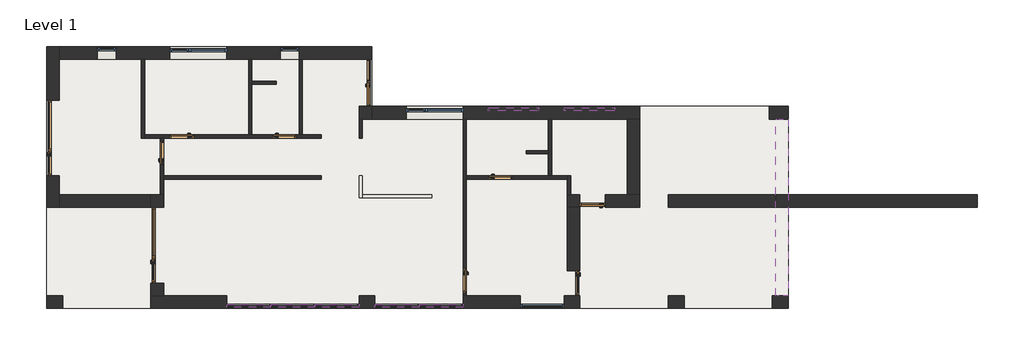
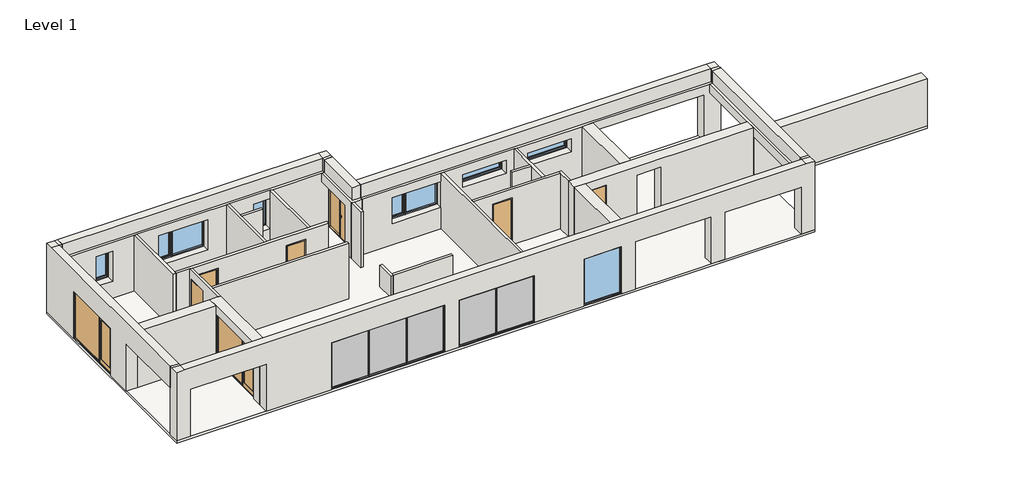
# One storey, incomplete: 27 walls, 17 members, 10 doors, 7 windows, 5 plates, 1 slab.
"""IFC4 building model written with IfcOpenShell, lengths in millimetres."""

from ifc_helpers import new_model, si_unit, frame, origin, origin_with_axes, place, context, project, spatial, polyline, outline, extrude, faceted_brep, transform, mapped, element, save
from components import door_1800x2200_mm_7a9b0269, ext_door_window_assembly_glass_2880x2200_mm_ebeafb6b, ext_single_flush_out_glass_960x2200_mm_f4f0ea2b, ext_single_flush1_960x2200_mm_7c25dc53, int_single_flush1_900x2200_mm_083ae047, int_single_flush1_900x2200_mm_924e3177, rectangular_mullion_exterior_50x115mm_b31c03e9, rectangular_mullion_exterior_50x115mm_eaa21abb, rectangular_mullion_exterior_50x115mm_593a1a29, system_panel_exterior_glass_22mm_baca3ab9, system_panel_exterior_glass_22mm_266c4f93, fixed_1680x2200_mm_e3bfc0e5, single_light_top_hinged_1920x600_dd11e4f9, single_light_720x1400_mm_50d61ae6, window_assembly_individual_2160x1200_mm_f898fd7d, window_assembly_individual_2160x1400_mm_6f070fa8

model = new_model("IFC4")

# Units and contexts
model_context = context("Model", 3, world=origin())
ifc_project = project(units=[si_unit("LENGTHUNIT", "METRE", prefix="MILLI")], contexts=[model_context])

# Site, building, storey
site = spatial("IfcSite", under=ifc_project)
building = spatial("IfcBuilding", under=site)
storey = spatial("IfcBuildingStorey", under=building, Name="Level 1", Elevation=0.0)

# Doors
placement = place(None, origin())
door_1800x2200_mm_shape = door_1800x2200_mm_7a9b0269(model_context)
element("IfcDoor", 1, ObjectType="Ext. Door inw. Window Assembly : 1800x2200 mm", at=placement, inside=storey, context=model_context, shape_type="MappedRepresentation", body=[
    mapped(door_1800x2200_mm_shape, transform((12120.0, 8580.0, 0.0), x_axis=(0.0, -1.0, 0.0), y_axis=(1.0, 0.0, 0.0), z_axis=(0.0, 0.0, 1.0))),
])
ext_door_window_assembly_glass_2880x2200_mm_shape = ext_door_window_assembly_glass_2880x2200_mm_ebeafb6b(model_context)
element("IfcDoor", 2, ObjectType="Ext. Door Window Assembly - Glass : 2880x2200 mm", at=placement, inside=storey, context=model_context, shape_type="MappedRepresentation", body=[
    mapped(ext_door_window_assembly_glass_2880x2200_mm_shape, transform((4200.0, 2400.0, 0.0), x_axis=(0.0, -1.0, 0.0), y_axis=(1.0, 0.0, 0.0), z_axis=(0.0, 0.0, 1.0))),
])
element("IfcDoor", 3, ObjectType="Ext. Door Window Assembly - Glass : 2880x2200 mm", at=placement, inside=storey, context=model_context, shape_type="MappedRepresentation", body=[
    mapped(ext_door_window_assembly_glass_2880x2200_mm_shape, transform((240.0, 6480.0, 0.0), x_axis=(0.0, -1.0, 0.0), y_axis=(1.0, 0.0, 0.0), z_axis=(0.0, 0.0, 1.0))),
])
ext_single_flush_out_glass_960x2200_mm_shape = ext_single_flush_out_glass_960x2200_mm_f4f0ea2b(model_context)
element("IfcDoor", 4, ObjectType="Ext. Single-Flush out - Glass : 960x2200 mm", at=placement, inside=storey, context=model_context, shape_type="MappedRepresentation", body=[
    mapped(ext_single_flush_out_glass_960x2200_mm_shape, transform((20040.0, 960.0, 0.0), x_axis=(0.0, -1.0, 0.0), y_axis=(1.0, 0.0, 0.0), z_axis=(0.0, 0.0, 1.0))),
])
ext_single_flush1_960x2200_mm_shape = ext_single_flush1_960x2200_mm_7c25dc53(model_context)
element("IfcDoor", 5, ObjectType="Ext. Single-Flush1 : 960x2200 mm", at=placement, inside=storey, context=model_context, shape_type="MappedRepresentation", body=[
    mapped(ext_single_flush1_960x2200_mm_shape, transform((20760.0, 4080.0, 0.0), x_axis=(-1.0, 0.0, 0.0), y_axis=(0.0, -1.0, 0.0), z_axis=(0.0, 0.0, 1.0))),
])
int_single_flush1_900x2200_mm_shape = int_single_flush1_900x2200_mm_083ae047(model_context)
element("IfcDoor", 6, ObjectType="Int. Single-Flush1 : 900x2200 mm", at=placement, inside=storey, context=model_context, shape_type="MappedRepresentation", body=[
    mapped(int_single_flush1_900x2200_mm_shape, transform((4380.0, 5910.0, 0.0), x_axis=(0.0, 1.0, 0.0), y_axis=(-1.0, 0.0, 0.0), z_axis=(0.0, 0.0, 1.0))),
])
element("IfcDoor", 7, ObjectType="Int. Single-Flush1 : 900x2200 mm", at=placement, inside=storey, context=model_context, shape_type="MappedRepresentation", body=[
    mapped(int_single_flush1_900x2200_mm_shape, transform((9030.0, 6540.0, 0.0), x_axis=(1.0, 0.0, 0.0), y_axis=(0.0, 1.0, 0.0), z_axis=(0.0, 0.0, 1.0))),
])
element("IfcDoor", 8, ObjectType="Int. Single-Flush1 : 900x2200 mm", at=placement, inside=storey, context=model_context, shape_type="MappedRepresentation", body=[
    mapped(int_single_flush1_900x2200_mm_shape, transform((17250.0, 4980.0, 0.0), x_axis=(1.0, 0.0, 0.0), y_axis=(0.0, 1.0, 0.0), z_axis=(0.0, 0.0, 1.0))),
])
element("IfcDoor", 9, ObjectType="Int. Single-Flush1 : 900x2200 mm", at=placement, inside=storey, context=model_context, shape_type="MappedRepresentation", body=[
    mapped(int_single_flush1_900x2200_mm_shape, transform((15900.0, 1050.0, 0.0), x_axis=(0.0, -1.0, 0.0), y_axis=(1.0, 0.0, 0.0), z_axis=(0.0, 0.0, 1.0))),
])
int_single_flush1_900x2200_mm_2_shape = int_single_flush1_900x2200_mm_924e3177(model_context)
element("IfcDoor", 10, ObjectType="Int. Single-Flush1 : 900x2200 mm", at=placement, inside=storey, context=model_context, shape_type="MappedRepresentation", body=[
    mapped(int_single_flush1_900x2200_mm_2_shape, transform((5130.0, 6540.0, 0.0), x_axis=(-1.0, 0.0, 0.0), y_axis=(0.0, -1.0, 0.0), z_axis=(0.0, 0.0, 1.0))),
])

# Members
rectangular_mullion_exterior_50x115mm_shape = rectangular_mullion_exterior_50x115mm_b31c03e9(model_context)
element("IfcMember", 11, ObjectType="Rectangular Mullion : Exterior - 50x115mm", at=placement, inside=storey, context=model_context, shape_type="MappedRepresentation", body=[
    mapped(rectangular_mullion_exterior_50x115mm_shape, transform((6840.0, 50.0, 2200.0), x_axis=(0.0, 0.0, 1.0), y_axis=(0.0, 1.0, 0.0), z_axis=(-1.0, 0.0, 0.0))),
])
element("IfcMember", 12, ObjectType="Rectangular Mullion : Exterior - 50x115mm", at=placement, inside=storey, context=model_context, shape_type="MappedRepresentation", body=[
    mapped(rectangular_mullion_exterior_50x115mm_shape, transform((12480.0, 50.0, 2200.0), x_axis=(0.0, 0.0, 1.0), y_axis=(0.0, 1.0, 0.0), z_axis=(-1.0, 0.0, 0.0))),
])
element("IfcMember", 13, ObjectType="Rectangular Mullion : Exterior - 50x115mm", at=placement, inside=storey, context=model_context, shape_type="MappedRepresentation", body=[
    mapped(rectangular_mullion_exterior_50x115mm_shape, transform((11880.0, 50.0, 0.0), x_axis=(0.0, 0.0, -1.0), y_axis=(0.0, 1.0, 0.0), z_axis=(1.0, 0.0, 0.0))),
])
element("IfcMember", 14, ObjectType="Rectangular Mullion : Exterior - 50x115mm", at=placement, inside=storey, context=model_context, shape_type="MappedRepresentation", body=[
    mapped(rectangular_mullion_exterior_50x115mm_shape, transform((15840.0, 50.0, 0.0), x_axis=(0.0, 0.0, -1.0), y_axis=(0.0, 1.0, 0.0), z_axis=(1.0, 0.0, 0.0))),
])
rectangular_mullion_exterior_50x115mm_2_shape = rectangular_mullion_exterior_50x115mm_eaa21abb(model_context)
element("IfcMember", 15, ObjectType="Rectangular Mullion : Exterior - 50x115mm", at=placement, inside=storey, context=model_context, shape_type="MappedRepresentation", body=[
    mapped(rectangular_mullion_exterior_50x115mm_2_shape, transform((8520.0, 50.0, 50.0), x_axis=(-1.0, 0.0, 0.0), y_axis=(0.0, 1.0, 0.0), z_axis=(0.0, 0.0, -1.0))),
])
element("IfcMember", 16, ObjectType="Rectangular Mullion : Exterior - 50x115mm", at=placement, inside=storey, context=model_context, shape_type="MappedRepresentation", body=[
    mapped(rectangular_mullion_exterior_50x115mm_2_shape, transform((10200.0, 50.0, 50.0), x_axis=(-1.0, 0.0, 0.0), y_axis=(0.0, 1.0, 0.0), z_axis=(0.0, 0.0, -1.0))),
])
element("IfcMember", 17, ObjectType="Rectangular Mullion : Exterior - 50x115mm", at=placement, inside=storey, context=model_context, shape_type="MappedRepresentation", body=[
    mapped(rectangular_mullion_exterior_50x115mm_2_shape, transform((14160.0, 50.0, 50.0), x_axis=(-1.0, 0.0, 0.0), y_axis=(0.0, 1.0, 0.0), z_axis=(0.0, 0.0, -1.0))),
])
element("IfcMember", 18, ObjectType="Rectangular Mullion : Exterior - 50x115mm", at=placement, inside=storey, context=model_context, shape_type="MappedRepresentation", body=[
    mapped(rectangular_mullion_exterior_50x115mm_shape, transform((8520.0, 50.0, 0.0), x_axis=(0.0, 0.0, -1.0), y_axis=(0.0, 1.0, 0.0), z_axis=(1.0, 0.0, 0.0))),
])
element("IfcMember", 19, ObjectType="Rectangular Mullion : Exterior - 50x115mm", at=placement, inside=storey, context=model_context, shape_type="MappedRepresentation", body=[
    mapped(rectangular_mullion_exterior_50x115mm_shape, transform((14160.0, 50.0, 0.0), x_axis=(0.0, 0.0, -1.0), y_axis=(0.0, 1.0, 0.0), z_axis=(1.0, 0.0, 0.0))),
])
element("IfcMember", 20, ObjectType="Rectangular Mullion : Exterior - 50x115mm", at=placement, inside=storey, context=model_context, shape_type="MappedRepresentation", body=[
    mapped(rectangular_mullion_exterior_50x115mm_shape, transform((10200.0, 50.0, 0.0), x_axis=(0.0, 0.0, -1.0), y_axis=(0.0, 1.0, 0.0), z_axis=(1.0, 0.0, 0.0))),
])
element("IfcMember", 21, ObjectType="Rectangular Mullion : Exterior - 50x115mm", at=placement, inside=storey, context=model_context, shape_type="MappedRepresentation", body=[
    mapped(rectangular_mullion_exterior_50x115mm_shape, transform((8520.0, 50.0, 2200.0), x_axis=(0.0, 0.0, 1.0), y_axis=(0.0, 1.0, 0.0), z_axis=(-1.0, 0.0, 0.0))),
])
element("IfcMember", 22, ObjectType="Rectangular Mullion : Exterior - 50x115mm", at=placement, inside=storey, context=model_context, shape_type="MappedRepresentation", body=[
    mapped(rectangular_mullion_exterior_50x115mm_shape, transform((10200.0, 50.0, 2200.0), x_axis=(0.0, 0.0, 1.0), y_axis=(0.0, 1.0, 0.0), z_axis=(-1.0, 0.0, 0.0))),
])
element("IfcMember", 23, ObjectType="Rectangular Mullion : Exterior - 50x115mm", at=placement, inside=storey, context=model_context, shape_type="MappedRepresentation", body=[
    mapped(rectangular_mullion_exterior_50x115mm_shape, transform((14160.0, 50.0, 2200.0), x_axis=(0.0, 0.0, 1.0), y_axis=(0.0, 1.0, 0.0), z_axis=(-1.0, 0.0, 0.0))),
])
rectangular_mullion_exterior_50x115mm_3_shape = rectangular_mullion_exterior_50x115mm_593a1a29(model_context)
element("IfcMember", 24, ObjectType="Rectangular Mullion : Exterior - 50x115mm", at=placement, inside=storey, context=model_context, shape_type="MappedRepresentation", body=[
    mapped(rectangular_mullion_exterior_50x115mm_3_shape, transform((11880.0, 50.0, 2150.0), x_axis=(1.0, 0.0, 0.0), y_axis=(0.0, 1.0, 0.0), z_axis=(0.0, 0.0, 1.0))),
])
element("IfcMember", 25, ObjectType="Rectangular Mullion : Exterior - 50x115mm", at=placement, inside=storey, context=model_context, shape_type="MappedRepresentation", body=[
    mapped(rectangular_mullion_exterior_50x115mm_3_shape, transform((15840.0, 50.0, 2150.0), x_axis=(1.0, 0.0, 0.0), y_axis=(0.0, 1.0, 0.0), z_axis=(0.0, 0.0, 1.0))),
])
element("IfcMember", 26, ObjectType="Rectangular Mullion : Exterior - 50x115mm", at=placement, inside=storey, context=model_context, shape_type="MappedRepresentation", body=[
    mapped(rectangular_mullion_exterior_50x115mm_3_shape, transform((6840.0, 50.0, 50.0), x_axis=(-1.0, 0.0, 0.0), y_axis=(0.0, 1.0, 0.0), z_axis=(0.0, 0.0, -1.0))),
])
element("IfcMember", 27, ObjectType="Rectangular Mullion : Exterior - 50x115mm", at=placement, inside=storey, context=model_context, shape_type="MappedRepresentation", body=[
    mapped(rectangular_mullion_exterior_50x115mm_3_shape, transform((12480.0, 50.0, 50.0), x_axis=(-1.0, 0.0, 0.0), y_axis=(0.0, 1.0, 0.0), z_axis=(0.0, 0.0, -1.0))),
])

# Plates
system_panel_exterior_glass_22mm_shape = system_panel_exterior_glass_22mm_baca3ab9(model_context)
element("IfcPlate", 28, ObjectType="System Panel : Exterior - Glass 22mm", at=placement, inside=storey, context=model_context, shape_type="MappedRepresentation", body=[
    mapped(system_panel_exterior_glass_22mm_shape, transform((11027.5, 50.0, 50.0), x_axis=(-1.0, 0.0, 0.0), y_axis=(0.0, -1.0, 0.0), z_axis=(0.0, 0.0, 1.0))),
])
element("IfcPlate", 29, ObjectType="System Panel : Exterior - Glass 22mm", at=placement, inside=storey, context=model_context, shape_type="MappedRepresentation", body=[
    mapped(system_panel_exterior_glass_22mm_shape, transform((7692.5, 50.0, 50.0), x_axis=(-1.0, 0.0, 0.0), y_axis=(0.0, -1.0, 0.0), z_axis=(0.0, 0.0, 1.0))),
])
element("IfcPlate", 30, ObjectType="System Panel : Exterior - Glass 22mm", at=placement, inside=storey, context=model_context, shape_type="MappedRepresentation", body=[
    mapped(system_panel_exterior_glass_22mm_shape, transform((14987.5, 50.0, 50.0), x_axis=(-1.0, 0.0, 0.0), y_axis=(0.0, -1.0, 0.0), z_axis=(0.0, 0.0, 1.0))),
])
element("IfcPlate", 31, ObjectType="System Panel : Exterior - Glass 22mm", at=placement, inside=storey, context=model_context, shape_type="MappedRepresentation", body=[
    mapped(system_panel_exterior_glass_22mm_shape, transform((13332.5, 50.0, 50.0), x_axis=(-1.0, 0.0, 0.0), y_axis=(0.0, -1.0, 0.0), z_axis=(0.0, 0.0, 1.0))),
])
system_panel_exterior_glass_22mm_2_shape = system_panel_exterior_glass_22mm_266c4f93(model_context)
element("IfcPlate", 32, ObjectType="System Panel : Exterior - Glass 22mm", at=placement, inside=storey, context=model_context, shape_type="MappedRepresentation", body=[
    mapped(system_panel_exterior_glass_22mm_2_shape, transform((9360.0, 50.0, 50.0), x_axis=(-1.0, 0.0, 0.0), y_axis=(0.0, -1.0, 0.0), z_axis=(0.0, 0.0, 1.0))),
])

# Slab
element("IfcSlab", 33, ObjectType="Generic - 100mm (Ground)", at=placement, inside=storey, context=model_context, shape_type="SweptSolid", body=[
    extrude(outline(polyline([(12360.0, 9960.0), (12360.0, 7680.0), (28200.0, 7680.0), (28200.0, 4320.0), (35400.0, 4320.0), (35400.0, 3840.0), (28200.0, 3840.0), (28200.0, 0.0), (0.0, 0.0), (0.0, 9960.0), (12360.0, 9960.0)])), frame((0.0, 0.0, -100.0), z_axis=(0.0, 0.0, 1.0), x_axis=(1.0, 0.0, 0.0)), (0.0, 0.0, 1.0), 100.0),
])

# Walls
element("IfcWall", 34, ObjectType="Generic - 120mm (Interior)", at=placement, inside=storey, context=model_context, shape_type="Brep", body=[
    faceted_brep([(3600.0, 9480.0, 0.0), (3600.0, 6480.0, 0.0), (3600.0, 6480.0, 2600.0), (3600.0, 9480.0, 2600.0), (3720.0, 9480.0, 0.0), (3720.0, 9480.0, 2600.0), (3720.0, 6600.0, 2600.0), (3720.0, 6480.0, 2600.0), (3720.0, 6480.0, 0.0), (3720.0, 6600.0, 0.0)], [[[0, 1, 2, 3]], [[4, 5, 6, 7, 8, 9]], [[1, 0, 4, 9, 8]], [[2, 1, 8, 7]], [[0, 3, 5, 4]], [[3, 2, 7, 6, 5]]]),
])
element("IfcWall", 35, ObjectType="Generic - 120mm (Interior)", at=placement, inside=storey, context=model_context, shape_type="Brep", body=[
    faceted_brep([(10440.0, 6480.0, 0.0), (10440.0, 6480.0, 2600.0), (4440.0, 6480.0, 2600.0), (4320.0, 6480.0, 2600.0), (3720.0, 6480.0, 2600.0), (3720.0, 6480.0, 0.0), (4320.0, 6480.0, 0.0), (4440.0, 6480.0, 0.0), (4680.0, 6480.0, 0.0), (4680.0, 6480.0, 2200.0), (5580.0, 6480.0, 2200.0), (5580.0, 6480.0, 0.0), (8580.0, 6480.0, 0.0), (8580.0, 6480.0, 2200.0), (9480.0, 6480.0, 2200.0), (9480.0, 6480.0, 0.0), (10440.0, 6600.0, 2600.0), (10440.0, 6600.0, 0.0), (9720.0, 6600.0, 0.0), (9600.0, 6600.0, 0.0), (9480.0, 6600.0, 0.0), (9480.0, 6600.0, 2200.0), (8580.0, 6600.0, 2200.0), (8580.0, 6600.0, 0.0), (7800.0, 6600.0, 0.0), (7680.0, 6600.0, 0.0), (5580.0, 6600.0, 0.0), (5580.0, 6600.0, 2200.0), (4680.0, 6600.0, 2200.0), (4680.0, 6600.0, 0.0), (3720.0, 6600.0, 0.0), (3720.0, 6600.0, 2600.0), (7680.0, 6600.0, 2600.0), (7800.0, 6600.0, 2600.0), (9600.0, 6600.0, 2600.0), (9720.0, 6600.0, 2600.0)], [[[0, 1, 2, 3, 4, 5, 6, 7, 8, 9, 10, 11, 12, 13, 14, 15]], [[16, 17, 18, 19, 20, 21, 22, 23, 24, 25, 26, 27, 28, 29, 30, 31, 32, 33, 34, 35]], [[17, 0, 15, 20, 19, 18]], [[5, 30, 29, 8, 7, 6]], [[23, 12, 11, 26, 25, 24]], [[1, 0, 17, 16]], [[5, 4, 31, 30]], [[14, 21, 20, 15]], [[21, 14, 13, 22]], [[22, 13, 12, 23]], [[28, 9, 8, 29]], [[9, 28, 27, 10]], [[10, 27, 26, 11]], [[4, 3, 2, 1, 16, 35, 34, 33, 32, 31]]]),
])
element("IfcWall", 36, ObjectType="Generic - 120mm (Interior)", at=placement, inside=storey, context=model_context, shape_type="Brep", body=[
    faceted_brep([(4440.0, 6480.0, 0.0), (4440.0, 6480.0, 2600.0), (4440.0, 5040.0, 2600.0), (4440.0, 4920.0, 2600.0), (4440.0, 4320.0, 2600.0), (4440.0, 4320.0, 0.0), (4440.0, 4920.0, 0.0), (4440.0, 5040.0, 0.0), (4440.0, 5460.0, 0.0), (4440.0, 5460.0, 2200.0), (4440.0, 6360.0, 2200.0), (4440.0, 6360.0, 0.0), (4320.0, 6480.0, 2600.0), (4320.0, 6480.0, 0.0), (4320.0, 6360.0, 0.0), (4320.0, 6360.0, 2200.0), (4320.0, 5460.0, 2200.0), (4320.0, 5460.0, 0.0), (4320.0, 4320.0, 0.0), (4320.0, 4320.0, 2600.0)], [[[0, 1, 2, 3, 4, 5, 6, 7, 8, 9, 10, 11]], [[12, 13, 14, 15, 16, 17, 18, 19]], [[13, 0, 11, 14]], [[5, 18, 17, 8, 7, 6]], [[1, 0, 13, 12]], [[5, 4, 19, 18]], [[10, 15, 14, 11]], [[15, 10, 9, 16]], [[16, 9, 8, 17]], [[4, 3, 2, 1, 12, 19]]]),
])
element("IfcWall", 37, ObjectType="Generic - 120mm (Interior)", at=placement, inside=storey, context=model_context, shape_type="Brep", body=[
    faceted_brep([(7800.0, 6600.0, 0.0), (7800.0, 8520.0, 0.0), (7800.0, 8640.0, 0.0), (7800.0, 9480.0, 0.0), (7800.0, 9480.0, 2600.0), (7800.0, 8640.0, 2600.0), (7800.0, 8520.0, 2600.0), (7800.0, 6600.0, 2600.0), (7680.0, 6600.0, 0.0), (7680.0, 6600.0, 2600.0), (7680.0, 9480.0, 2600.0), (7680.0, 9480.0, 0.0)], [[[0, 1, 2, 3, 4, 5, 6, 7]], [[8, 9, 10, 11]], [[3, 2, 1, 0, 8, 11]], [[0, 7, 9, 8]], [[4, 3, 11, 10]], [[7, 6, 5, 4, 10, 9]]]),
])
element("IfcWall", 38, ObjectType="Generic - 120mm (Interior)", at=placement, inside=storey, context=model_context, shape_type="Brep", body=[
    faceted_brep([(9720.0, 6600.0, 0.0), (9720.0, 9480.0, 0.0), (9720.0, 9480.0, 2600.0), (9720.0, 6600.0, 2600.0), (9600.0, 6600.0, 0.0), (9600.0, 6600.0, 2600.0), (9600.0, 9480.0, 2600.0), (9600.0, 9480.0, 2200.0), (9600.0, 9480.0, 800.0), (9600.0, 9480.0, 0.0)], [[[0, 1, 2, 3]], [[4, 5, 6, 7, 8, 9]], [[1, 0, 4, 9]], [[0, 3, 5, 4]], [[2, 1, 9, 8, 7, 6]], [[3, 2, 6, 5]]]),
])
element("IfcWall", 39, ObjectType="Generic - 120mm (Interior)", at=placement, inside=storey, context=model_context, shape_type="Brep", body=[
    faceted_brep([(15960.0, 7200.0, 0.0), (15960.0, 7200.0, 2600.0), (15960.0, 5040.0, 2600.0), (15960.0, 4920.0, 2600.0), (15960.0, 480.0, 2600.0), (15960.0, 480.0, 0.0), (15960.0, 600.0, 0.0), (15960.0, 600.0, 2200.0), (15960.0, 1500.0, 2200.0), (15960.0, 1500.0, 0.0), (15960.0, 4920.0, 0.0), (15960.0, 5040.0, 0.0), (15840.0, 7200.0, 2600.0), (15840.0, 7200.0, 2200.0), (15840.0, 7200.0, 1000.0), (15840.0, 7200.0, 0.0), (15840.0, 1500.0, 0.0), (15840.0, 1500.0, 2200.0), (15840.0, 600.0, 2200.0), (15840.0, 600.0, 0.0), (15840.0, 480.0, 0.0), (15840.0, 480.0, 2200.0), (15840.0, 480.0, 2600.0)], [[[0, 1, 2, 3, 4, 5, 6, 7, 8, 9, 10, 11]], [[12, 13, 14, 15, 16, 17, 18, 19, 20, 21, 22]], [[5, 20, 19, 6]], [[15, 0, 11, 10, 9, 16]], [[1, 0, 15, 14, 13, 12]], [[5, 4, 22, 21, 20]], [[18, 7, 6, 19]], [[7, 18, 17, 8]], [[8, 17, 16, 9]], [[4, 3, 2, 1, 12, 22]]]),
])
element("IfcWall", 40, ObjectType="Generic - 120mm (Interior)", at=placement, inside=storey, context=model_context, shape_type="Brep", body=[
    faceted_brep([(19920.0, 4320.0, 0.0), (19920.0, 5040.0, 0.0), (19920.0, 5040.0, 2600.0), (19920.0, 4320.0, 2600.0), (19800.0, 4320.0, 0.0), (19800.0, 4320.0, 2600.0), (19800.0, 4920.0, 2600.0), (19800.0, 5040.0, 2600.0), (19800.0, 5040.0, 0.0), (19800.0, 4920.0, 0.0)], [[[0, 1, 2, 3]], [[4, 5, 6, 7, 8, 9]], [[1, 0, 4, 9, 8]], [[2, 1, 8, 7]], [[0, 3, 5, 4]], [[3, 2, 7, 6, 5]]]),
])
element("IfcWall", 41, ObjectType="Generic - 120mm (Interior)", at=placement, inside=storey, context=model_context, shape_type="Brep", body=[
    faceted_brep([(19800.0, 5040.0, 2600.0), (19800.0, 5040.0, 0.0), (19200.0, 5040.0, 0.0), (19080.0, 5040.0, 0.0), (17700.0, 5040.0, 0.0), (17700.0, 5040.0, 2200.0), (16800.0, 5040.0, 2200.0), (16800.0, 5040.0, 0.0), (15960.0, 5040.0, 0.0), (15960.0, 5040.0, 2600.0), (19080.0, 5040.0, 2600.0), (19200.0, 5040.0, 2600.0), (19800.0, 4920.0, 0.0), (19800.0, 4920.0, 2600.0), (15960.0, 4920.0, 2600.0), (15960.0, 4920.0, 0.0), (16800.0, 4920.0, 0.0), (16800.0, 4920.0, 2200.0), (17700.0, 4920.0, 2200.0), (17700.0, 4920.0, 0.0)], [[[0, 1, 2, 3, 4, 5, 6, 7, 8, 9, 10, 11]], [[12, 13, 14, 15, 16, 17, 18, 19]], [[1, 12, 19, 4, 3, 2]], [[15, 8, 7, 16]], [[1, 0, 13, 12]], [[9, 8, 15, 14]], [[18, 5, 4, 19]], [[5, 18, 17, 6]], [[6, 17, 16, 7]], [[0, 11, 10, 9, 14, 13]]]),
])
element("IfcWall", 42, ObjectType="Generic - 120mm (Interior)", at=placement, inside=storey, context=model_context, shape_type="Brep", body=[
    faceted_brep([(19200.0, 5040.0, 0.0), (19200.0, 7200.0, 0.0), (19200.0, 7200.0, 2600.0), (19200.0, 5040.0, 2600.0), (19080.0, 5040.0, 0.0), (19080.0, 5040.0, 2600.0), (19080.0, 5880.0, 2600.0), (19080.0, 6000.0, 2600.0), (19080.0, 7200.0, 2600.0), (19080.0, 7200.0, 0.0), (19080.0, 6000.0, 0.0), (19080.0, 5880.0, 0.0)], [[[0, 1, 2, 3]], [[4, 5, 6, 7, 8, 9, 10, 11]], [[1, 0, 4, 11, 10, 9]], [[0, 3, 5, 4]], [[2, 1, 9, 8]], [[3, 2, 8, 7, 6, 5]]]),
])
element("IfcWall", 43, ObjectType="Generic - 120mm (Interior)", at=placement, inside=storey, context=model_context, shape_type="SweptSolid", body=[
    extrude(outline(polyline([(18240.0, 6000.0), (19080.0, 6000.0), (19080.0, 5880.0), (18240.0, 5880.0), (18240.0, 6000.0)])), origin_with_axes(), (0.0, 0.0, 1.0), 2600.0),
])
element("IfcWall", 44, ObjectType="Generic - 120mm (Interior)", at=placement, inside=storey, context=model_context, shape_type="SweptSolid", body=[
    extrude(outline(polyline([(8720.0, 8520.0), (7800.0, 8520.0), (7800.0, 8640.0), (8720.0, 8640.0), (8720.0, 8520.0)])), origin_with_axes(), (0.0, 0.0, 1.0), 2600.0),
])
element("IfcWall", 45, ObjectType="Generic - 120mm (Interior)", at=placement, inside=storey, context=model_context, shape_type="SweptSolid", body=[
    extrude(outline(polyline([(10440.0, 4920.0), (4440.0, 4920.0), (4440.0, 5040.0), (10440.0, 5040.0), (10440.0, 4920.0)])), origin_with_axes(), (0.0, 0.0, 1.0), 2600.0),
])
element("IfcWall", 46, ObjectType="Generic - 120mm (Interior)", at=placement, inside=storey, context=model_context, shape_type="Brep", body=[
    faceted_brep([(11880.0, 5040.0, 0.0), (11880.0, 4200.0, 0.0), (11880.0, 4200.0, 1000.0), (11880.0, 5040.0, 1000.0), (12000.0, 5040.0, 0.0), (12000.0, 5040.0, 1000.0), (12000.0, 4320.0, 1000.0), (12000.0, 4200.0, 1000.0), (12000.0, 4200.0, 0.0), (12000.0, 4320.0, 0.0)], [[[0, 1, 2, 3]], [[4, 5, 6, 7, 8, 9]], [[1, 0, 4, 9, 8]], [[3, 2, 7, 6, 5]], [[0, 3, 5, 4]], [[2, 1, 8, 7]]]),
])
element("IfcWall", 47, ObjectType="Generic - 120mm (Interior)", at=placement, inside=storey, context=model_context, shape_type="SweptSolid", body=[
    extrude(outline(polyline([(14640.0, 4200.0), (12000.0, 4200.0), (12000.0, 4320.0), (14640.0, 4320.0), (14640.0, 4200.0)])), origin_with_axes(), (0.0, 0.0, 1.0), 1000.0),
])
element("IfcWall", 48, ObjectType="Generic - 120mm (Interior)", at=placement, inside=storey, context=model_context, shape_type="SweptSolid", body=[
    extrude(outline(polyline([(11880.0, 6480.0), (11880.0, 7200.0), (12000.0, 7200.0), (12000.0, 6480.0), (11880.0, 6480.0)])), origin_with_axes(), (0.0, 0.0, 1.0), 2600.0),
])
element("IfcWall", 49, ObjectType="Generic - 480mm (Exterior)", at=placement, inside=storey, context=model_context, shape_type="Brep", body=[
    faceted_brep([(480.0, 9960.0, 0.0), (480.0, 9960.0, 3200.0), (480.0, 9600.0, 3200.0), (480.0, 9600.0, 2600.0), (480.0, 9480.0, 2600.0), (480.0, 4320.0, 2600.0), (480.0, 3840.0, 2600.0), (480.0, 480.0, 2600.0), (480.0, 480.0, 2200.0), (480.0, 3840.0, 2200.0), (480.0, 3840.0, 0.0), (480.0, 4320.0, 0.0), (480.0, 5040.0, 0.0), (480.0, 5040.0, 2212.0), (480.0, 7920.0, 2212.0), (480.0, 7920.0, 0.0), (480.0, 9480.0, 0.0), (0.0, 9960.0, 3200.0), (0.0, 9960.0, 0.0), (0.0, 7920.0, 0.0), (0.0, 7920.0, 2212.0), (0.0, 5040.0, 2212.0), (0.0, 5040.0, 0.0), (0.0, 3840.0, 0.0), (0.0, 3840.0, 2200.0), (0.0, 480.0, 2200.0), (0.0, 480.0, 3200.0), (0.0, 9600.0, 3200.0), (360.0, 9960.0, 3200.0), (360.0, 480.0, 2600.0), (360.0, 480.0, 3200.0), (360.0, 9600.0, 3200.0), (360.0, 9600.0, 2600.0)], [[[0, 1, 2, 3, 4, 5, 6, 7, 8, 9, 10, 11, 12, 13, 14, 15, 16]], [[17, 18, 19, 20, 21, 22, 23, 24, 25, 26, 27]], [[1, 0, 18, 17, 28]], [[21, 13, 12, 22]], [[13, 21, 20, 14]], [[14, 20, 19, 15]], [[18, 0, 16, 15, 19]], [[10, 23, 22, 12, 11]], [[9, 8, 25, 24]], [[10, 9, 24, 23]], [[8, 7, 29, 30, 26, 25]], [[3, 2, 31, 32]], [[27, 26, 30, 31]], [[31, 30, 29, 32]], [[2, 1, 28, 31]], [[17, 27, 31, 28]], [[3, 32, 29, 7, 6, 5, 4]]]),
])
element("IfcWall", 50, ObjectType="Generic - 480mm (Exterior)", at=placement, inside=storey, context=model_context, shape_type="Brep", body=[
    faceted_brep([(480.0, 9480.0, 0.0), (3600.0, 9480.0, 0.0), (3720.0, 9480.0, 0.0), (7680.0, 9480.0, 0.0), (7800.0, 9480.0, 0.0), (9600.0, 9480.0, 0.0), (9720.0, 9480.0, 0.0), (12360.0, 9480.0, 0.0), (12360.0, 9480.0, 2200.0), (12360.0, 9480.0, 3200.0), (12000.0, 9480.0, 3200.0), (12000.0, 9480.0, 2600.0), (11880.0, 9480.0, 2600.0), (9720.0, 9480.0, 2600.0), (9600.0, 9480.0, 2600.0), (7800.0, 9480.0, 2600.0), (7680.0, 9480.0, 2600.0), (3720.0, 9480.0, 2600.0), (3600.0, 9480.0, 2600.0), (480.0, 9480.0, 2600.0), (8880.0, 9480.0, 800.0), (8880.0, 9480.0, 2200.0), (9600.0, 9480.0, 2200.0), (9600.0, 9480.0, 800.0), (6840.0, 9480.0, 2200.0), (6840.0, 9480.0, 800.0), (4680.0, 9480.0, 800.0), (4680.0, 9480.0, 2200.0), (1920.0, 9480.0, 800.0), (1920.0, 9480.0, 2200.0), (2640.0, 9480.0, 2200.0), (2640.0, 9480.0, 800.0), (12360.0, 9960.0, 0.0), (480.0, 9960.0, 0.0), (480.0, 9960.0, 3200.0), (12000.0, 9960.0, 3200.0), (12360.0, 9960.0, 3200.0), (8880.0, 9960.0, 2200.0), (8880.0, 9960.0, 800.0), (9600.0, 9960.0, 800.0), (9600.0, 9960.0, 2200.0), (6840.0, 9960.0, 800.0), (6840.0, 9960.0, 2200.0), (4680.0, 9960.0, 2200.0), (4680.0, 9960.0, 800.0), (1920.0, 9960.0, 2200.0), (1920.0, 9960.0, 800.0), (2640.0, 9960.0, 800.0), (2640.0, 9960.0, 2200.0), (480.0, 9600.0, 2600.0), (480.0, 9600.0, 3200.0), (12360.0, 9600.0, 3200.0), (12000.0, 9600.0, 2600.0), (12000.0, 9600.0, 3200.0)], [[[0, 1, 2, 3, 4, 5, 6, 7, 8, 9, 10, 11, 12, 13, 14, 15, 16, 17, 18, 19], [20, 21, 22, 23], [24, 25, 26, 27], [28, 29, 30, 31]], [[32, 33, 34, 35, 36], [37, 38, 39, 40], [41, 42, 43, 44], [45, 46, 47, 48]], [[7, 6, 5, 4, 3, 2, 1, 0, 33, 32]], [[0, 19, 49, 50, 34, 33]], [[9, 8, 7, 32, 36, 51]], [[20, 38, 37, 21]], [[39, 23, 22, 40]], [[38, 20, 23, 39]], [[41, 25, 24, 42]], [[43, 27, 26, 44]], [[25, 41, 44, 26]], [[28, 46, 45, 29]], [[47, 31, 30, 48]], [[46, 28, 31, 47]], [[40, 22, 21, 37]], [[27, 43, 42, 24]], [[48, 30, 29, 45]], [[50, 49, 52, 53]], [[9, 51, 53, 10]], [[10, 53, 52, 11]], [[34, 50, 53, 35]], [[51, 36, 35, 53]], [[19, 18, 17, 16, 15, 14, 13, 12, 11, 52, 49]]]),
])
element("IfcWall", 51, ObjectType="Generic - 480mm (Exterior)", at=placement, inside=storey, context=model_context, shape_type="Brep", body=[
    faceted_brep([(11880.0, 7200.0, 0.0), (11880.0, 7200.0, 2600.0), (11880.0, 9480.0, 2600.0), (11880.0, 9480.0, 2200.0), (11880.0, 7680.0, 2200.0), (11880.0, 7680.0, 0.0), (12360.0, 7200.0, 2600.0), (12360.0, 7200.0, 0.0), (12360.0, 7680.0, 0.0), (12360.0, 7680.0, 2200.0), (12360.0, 9480.0, 2200.0), (12360.0, 9480.0, 3200.0), (12360.0, 7680.0, 3200.0), (12360.0, 7320.0, 3200.0), (12360.0, 7320.0, 2600.0), (12000.0, 9480.0, 3200.0), (12000.0, 9480.0, 2600.0), (12000.0, 7200.0, 2600.0), (12000.0, 7320.0, 2600.0), (12000.0, 7320.0, 3200.0)], [[[0, 1, 2, 3, 4, 5]], [[6, 7, 8, 9, 10, 11, 12, 13, 14]], [[7, 0, 5, 8]], [[15, 11, 10, 3, 2, 16]], [[4, 9, 8, 5]], [[9, 4, 3, 10]], [[1, 0, 7, 6, 17]], [[15, 16, 18, 19]], [[11, 15, 19, 13, 12]], [[13, 19, 18, 14]], [[16, 2, 1, 17, 6, 14, 18]]]),
])
element("IfcWall", 52, ObjectType="Generic - 480mm (Exterior)", at=placement, inside=storey, context=model_context, shape_type="Brep", body=[
    faceted_brep([(12360.0, 7200.0, 0.0), (15840.0, 7200.0, 0.0), (15960.0, 7200.0, 0.0), (19080.0, 7200.0, 0.0), (19200.0, 7200.0, 0.0), (22080.0, 7200.0, 0.0), (22560.0, 7200.0, 0.0), (22560.0, 7200.0, 2200.0), (27480.0, 7200.0, 2200.0), (27480.0, 7200.0, 0.0), (28200.0, 7200.0, 0.0), (28200.0, 7200.0, 2200.0), (28200.0, 7200.0, 3200.0), (27840.0, 7200.0, 3200.0), (27840.0, 7200.0, 2600.0), (27720.0, 7200.0, 2600.0), (22560.0, 7200.0, 2600.0), (22080.0, 7200.0, 2600.0), (19200.0, 7200.0, 2600.0), (19080.0, 7200.0, 2600.0), (15960.0, 7200.0, 2600.0), (15840.0, 7200.0, 2600.0), (12360.0, 7200.0, 2600.0), (19680.0, 7200.0, 1600.0), (19680.0, 7200.0, 2200.0), (21600.0, 7200.0, 2200.0), (21600.0, 7200.0, 1600.0), (16800.0, 7200.0, 1600.0), (16800.0, 7200.0, 2200.0), (18720.0, 7200.0, 2200.0), (18720.0, 7200.0, 1600.0), (15840.0, 7200.0, 1000.0), (13680.0, 7200.0, 1000.0), (13680.0, 7200.0, 2200.0), (15840.0, 7200.0, 2200.0), (12360.0, 7680.0, 0.0), (12360.0, 7680.0, 2200.0), (12360.0, 7680.0, 3200.0), (27840.0, 7680.0, 3200.0), (28200.0, 7680.0, 3200.0), (28200.0, 7680.0, 0.0), (27480.0, 7680.0, 0.0), (27480.0, 7680.0, 2200.0), (22560.0, 7680.0, 2200.0), (22560.0, 7680.0, 0.0), (19680.0, 7680.0, 1600.0), (21600.0, 7680.0, 1600.0), (21600.0, 7680.0, 2200.0), (19680.0, 7680.0, 2200.0), (16800.0, 7680.0, 1600.0), (18720.0, 7680.0, 1600.0), (18720.0, 7680.0, 2200.0), (16800.0, 7680.0, 2200.0), (15840.0, 7680.0, 1000.0), (15840.0, 7680.0, 2200.0), (13680.0, 7680.0, 2200.0), (13680.0, 7680.0, 1000.0), (28200.0, 7320.0, 3200.0), (12360.0, 7320.0, 2600.0), (12360.0, 7320.0, 3200.0), (27840.0, 7320.0, 3200.0), (27840.0, 7320.0, 2600.0)], [[[0, 1, 2, 3, 4, 5, 6, 7, 8, 9, 10, 11, 12, 13, 14, 15, 16, 17, 18, 19, 20, 21, 22], [23, 24, 25, 26], [27, 28, 29, 30], [31, 32, 33, 34]], [[35, 36, 37, 38, 39, 40, 41, 42, 43, 44], [45, 46, 47, 48], [49, 50, 51, 52], [53, 54, 55, 56]], [[12, 11, 10, 40, 39, 57]], [[24, 23, 45, 48]], [[25, 24, 48, 47]], [[26, 25, 47, 46]], [[23, 26, 46, 45]], [[28, 27, 49, 52]], [[29, 28, 52, 51]], [[30, 29, 51, 50]], [[27, 30, 50, 49]], [[54, 53, 31, 34]], [[55, 54, 34, 33]], [[56, 55, 33, 32]], [[53, 56, 32, 31]], [[6, 5, 4, 3, 2, 1, 0, 35, 44]], [[8, 7, 43, 42]], [[9, 8, 42, 41]], [[10, 9, 41, 40]], [[7, 6, 44, 43]], [[0, 22, 58, 59, 37, 36, 35]], [[60, 59, 58, 61]], [[13, 12, 57, 60]], [[13, 60, 61, 14]], [[38, 37, 59, 60]], [[57, 39, 38, 60]], [[22, 21, 20, 19, 18, 17, 16, 15, 14, 61, 58]]]),
])
element("IfcWall", 53, ObjectType="Generic - 480mm (Exterior)", at=placement, inside=storey, context=model_context, shape_type="Brep", body=[
    faceted_brep([(27720.0, 7200.0, 2200.0), (27720.0, 480.0, 2200.0), (27720.0, 480.0, 2600.0), (27720.0, 3840.0, 2600.0), (27720.0, 4320.0, 2600.0), (27720.0, 7200.0, 2600.0), (28200.0, 7200.0, 2200.0), (28200.0, 7200.0, 3200.0), (28200.0, 480.0, 3200.0), (28200.0, 480.0, 2200.0), (27840.0, 7200.0, 2600.0), (27840.0, 7200.0, 3200.0), (27840.0, 480.0, 3200.0), (27840.0, 480.0, 2600.0)], [[[0, 1, 2, 3, 4, 5]], [[6, 7, 8, 9]], [[1, 0, 6, 9]], [[0, 5, 10, 11, 7, 6]], [[2, 1, 9, 8, 12, 13]], [[12, 8, 7, 11]], [[12, 11, 10, 13]], [[5, 4, 3, 2, 13, 10]]]),
])
element("IfcWall", 54, ObjectType="Generic - 480mm (Exterior)", at=placement, inside=storey, context=model_context, shape_type="Brep", body=[
    faceted_brep([(28200.0, 480.0, 0.0), (27600.0, 480.0, 0.0), (27600.0, 480.0, 2200.0), (24240.0, 480.0, 2200.0), (24240.0, 480.0, 0.0), (23640.0, 480.0, 0.0), (23640.0, 480.0, 2200.0), (20280.0, 480.0, 2200.0), (20280.0, 480.0, 0.0), (19680.0, 480.0, 0.0), (19680.0, 480.0, 2200.0), (18000.0, 480.0, 2200.0), (18000.0, 480.0, 0.0), (15960.0, 480.0, 0.0), (15840.0, 480.0, 0.0), (15840.0, 480.0, 2200.0), (12480.0, 480.0, 2200.0), (12480.0, 480.0, 0.0), (11880.0, 480.0, 0.0), (11880.0, 480.0, 2200.0), (6840.0, 480.0, 2200.0), (6840.0, 480.0, 0.0), (4440.0, 480.0, 0.0), (3960.0, 480.0, 0.0), (3960.0, 480.0, 2200.0), (600.0, 480.0, 2200.0), (600.0, 480.0, 0.0), (0.0, 480.0, 0.0), (0.0, 480.0, 2200.0), (0.0, 480.0, 3200.0), (360.0, 480.0, 3200.0), (360.0, 480.0, 2600.0), (480.0, 480.0, 2600.0), (3960.0, 480.0, 2600.0), (4440.0, 480.0, 2600.0), (15840.0, 480.0, 2600.0), (15960.0, 480.0, 2600.0), (19800.0, 480.0, 2600.0), (20280.0, 480.0, 2600.0), (27720.0, 480.0, 2600.0), (27840.0, 480.0, 2600.0), (27840.0, 480.0, 3200.0), (28200.0, 480.0, 3200.0), (28200.0, 480.0, 2200.0), (27600.0, 0.0, 0.0), (28200.0, 0.0, 0.0), (28200.0, 0.0, 3200.0), (27840.0, 0.0, 3200.0), (360.0, 0.0, 3200.0), (0.0, 0.0, 3200.0), (0.0, 0.0, 0.0), (600.0, 0.0, 0.0), (600.0, 0.0, 2200.0), (3960.0, 0.0, 2200.0), (3960.0, 0.0, 0.0), (6840.0, 0.0, 0.0), (6840.0, 0.0, 2200.0), (11880.0, 0.0, 2200.0), (11880.0, 0.0, 0.0), (12480.0, 0.0, 0.0), (12480.0, 0.0, 2200.0), (15840.0, 0.0, 2200.0), (15840.0, 0.0, 0.0), (18000.0, 0.0, 0.0), (18000.0, 0.0, 2200.0), (19680.0, 0.0, 2200.0), (19680.0, 0.0, 0.0), (20280.0, 0.0, 0.0), (20280.0, 0.0, 2200.0), (23640.0, 0.0, 2200.0), (23640.0, 0.0, 0.0), (24240.0, 0.0, 0.0), (24240.0, 0.0, 2200.0), (27600.0, 0.0, 2200.0), (28200.0, 360.0, 3200.0), (0.0, 360.0, 3200.0), (27840.0, 360.0, 2600.0), (27840.0, 360.0, 3200.0), (360.0, 360.0, 2600.0), (360.0, 360.0, 3200.0)], [[[0, 1, 2, 3, 4, 5, 6, 7, 8, 9, 10, 11, 12, 13, 14, 15, 16, 17, 18, 19, 20, 21, 22, 23, 24, 25, 26, 27, 28, 29, 30, 31, 32, 33, 34, 35, 36, 37, 38, 39, 40, 41, 42, 43]], [[44, 45, 46, 47, 48, 49, 50, 51, 52, 53, 54, 55, 56, 57, 58, 59, 60, 61, 62, 63, 64, 65, 66, 67, 68, 69, 70, 71, 72, 73]], [[65, 10, 9, 66]], [[10, 65, 64, 11]], [[11, 64, 63, 12]], [[57, 19, 18, 58]], [[19, 57, 56, 20]], [[20, 56, 55, 21]], [[61, 15, 14, 62]], [[15, 61, 60, 16]], [[16, 60, 59, 17]], [[1, 0, 45, 44]], [[2, 1, 44, 73]], [[3, 2, 73, 72]], [[4, 3, 72, 71]], [[5, 4, 71, 70]], [[6, 5, 70, 69]], [[7, 6, 69, 68]], [[9, 8, 67, 66]], [[12, 63, 62, 14, 13]], [[58, 18, 17, 59]], [[23, 22, 21, 55, 54]], [[25, 24, 53, 52]], [[26, 25, 52, 51]], [[27, 26, 51, 50]], [[24, 23, 54, 53]], [[8, 7, 68, 67]], [[0, 43, 42, 74, 46, 45]], [[29, 28, 27, 50, 49, 75]], [[41, 40, 76, 77]], [[77, 76, 78, 79]], [[42, 41, 77, 74]], [[47, 46, 74, 77]], [[29, 75, 79, 30]], [[30, 79, 78, 31]], [[77, 79, 48, 47]], [[75, 49, 48, 79]], [[76, 40, 39, 38, 37, 36, 35, 34, 33, 32, 31, 78]]]),
])
element("IfcWall", 55, ObjectType="Generic - 480mm (Exterior)", at=placement, inside=storey, context=model_context, shape_type="Brep", body=[
    faceted_brep([(4440.0, 4320.0, 0.0), (4440.0, 4320.0, 2600.0), (4440.0, 480.0, 2600.0), (4440.0, 480.0, 0.0), (4440.0, 960.0, 0.0), (4440.0, 960.0, 2212.0), (4440.0, 3840.0, 2212.0), (4440.0, 3840.0, 0.0), (3960.0, 4320.0, 2600.0), (3960.0, 4320.0, 0.0), (3960.0, 3840.0, 0.0), (3960.0, 3840.0, 2212.0), (3960.0, 960.0, 2212.0), (3960.0, 960.0, 0.0), (3960.0, 480.0, 0.0), (3960.0, 480.0, 2200.0), (3960.0, 480.0, 2600.0), (3960.0, 3840.0, 2600.0), (4320.0, 4320.0, 0.0), (4320.0, 4320.0, 2600.0)], [[[0, 1, 2, 3, 4, 5, 6, 7]], [[8, 9, 10, 11, 12, 13, 14, 15, 16, 17]], [[9, 18, 0, 7, 10]], [[3, 14, 13, 4]], [[1, 0, 18, 9, 8, 19]], [[12, 5, 4, 13]], [[5, 12, 11, 6]], [[6, 11, 10, 7]], [[14, 3, 2, 16, 15]], [[16, 2, 1, 19, 8, 17]]]),
])
element("IfcWall", 56, ObjectType="Generic - 480mm (Exterior)", at=placement, inside=storey, context=model_context, shape_type="Brep", body=[
    faceted_brep([(3960.0, 4320.0, 0.0), (480.0, 4320.0, 0.0), (480.0, 4320.0, 2600.0), (3960.0, 4320.0, 2600.0), (3960.0, 3840.0, 0.0), (3960.0, 3840.0, 2600.0), (480.0, 3840.0, 2600.0), (480.0, 3840.0, 2200.0), (480.0, 3840.0, 0.0)], [[[0, 1, 2, 3]], [[4, 5, 6, 7, 8]], [[1, 0, 4, 8]], [[0, 3, 5, 4]], [[1, 8, 7, 6, 2]], [[3, 2, 6, 5]]]),
])
element("IfcWall", 57, ObjectType="Generic - 480mm (Exterior)", at=placement, inside=storey, context=model_context, shape_type="Brep", body=[
    faceted_brep([(22080.0, 7200.0, 2600.0), (22080.0, 7200.0, 0.0), (22080.0, 4320.0, 0.0), (22080.0, 4320.0, 2600.0), (22560.0, 7200.0, 0.0), (22560.0, 7200.0, 2200.0), (22560.0, 7200.0, 2600.0), (22560.0, 4320.0, 2600.0), (22560.0, 4320.0, 2200.0), (22560.0, 4320.0, 0.0)], [[[0, 1, 2, 3]], [[4, 5, 6, 7, 8, 9]], [[2, 1, 4, 9]], [[0, 6, 5, 4, 1]], [[0, 3, 7, 6]], [[3, 2, 9, 8, 7]]]),
])
element("IfcWall", 58, ObjectType="Generic - 480mm (Exterior)", at=placement, inside=storey, context=model_context, shape_type="SweptSolid", body=[
    extrude(outline(polyline([(27720.0, 4320.0), (35400.0, 4320.0), (35400.0, 3840.0), (27720.0, 3840.0), (27720.0, 4320.0)])), origin_with_axes(), (0.0, 0.0, 1.0), 2200.0),
])
element("IfcWall", 59, ObjectType="Generic - 480mm (Exterior)", at=placement, inside=storey, context=model_context, shape_type="Brep", body=[
    faceted_brep([(19800.0, 3840.0, 2600.0), (19800.0, 3840.0, 0.0), (19800.0, 1440.0, 0.0), (19800.0, 1440.0, 2212.0), (19800.0, 480.0, 2212.0), (19800.0, 480.0, 2600.0), (20280.0, 3840.0, 0.0), (20280.0, 3840.0, 2200.0), (20280.0, 3840.0, 2600.0), (20280.0, 480.0, 2600.0), (20280.0, 480.0, 2212.0), (20280.0, 1440.0, 2212.0), (20280.0, 1440.0, 0.0)], [[[0, 1, 2, 3, 4, 5]], [[6, 7, 8, 9, 10, 11, 12]], [[1, 6, 12, 2]], [[1, 0, 8, 7, 6]], [[3, 11, 10, 4]], [[11, 3, 2, 12]], [[9, 5, 4, 10]], [[0, 5, 9, 8]]]),
])
element("IfcWall", 60, ObjectType="Generic - 480mm (Exterior)", at=placement, inside=storey, context=model_context, shape_type="Brep", body=[
    faceted_brep([(19800.0, 4320.0, 0.0), (19800.0, 4320.0, 2600.0), (19920.0, 4320.0, 2600.0), (22080.0, 4320.0, 2600.0), (22560.0, 4320.0, 2600.0), (27720.0, 4320.0, 2600.0), (27720.0, 4320.0, 2200.0), (27720.0, 4320.0, 0.0), (23640.0, 4320.0, 0.0), (23640.0, 4320.0, 2200.0), (22560.0, 4320.0, 2200.0), (22560.0, 4320.0, 0.0), (22080.0, 4320.0, 0.0), (21240.0, 4320.0, 0.0), (21240.0, 4320.0, 2200.0), (20280.0, 4320.0, 2200.0), (20280.0, 4320.0, 0.0), (19920.0, 4320.0, 0.0), (19800.0, 3840.0, 2600.0), (19800.0, 3840.0, 0.0), (20280.0, 3840.0, 0.0), (20280.0, 3840.0, 2200.0), (21240.0, 3840.0, 2200.0), (21240.0, 3840.0, 0.0), (22560.0, 3840.0, 0.0), (22560.0, 3840.0, 2200.0), (23640.0, 3840.0, 2200.0), (23640.0, 3840.0, 0.0), (27720.0, 3840.0, 0.0), (27720.0, 3840.0, 2200.0), (27720.0, 3840.0, 2600.0), (20280.0, 3840.0, 2600.0)], [[[0, 1, 2, 3, 4, 5, 6, 7, 8, 9, 10, 11, 12, 13, 14, 15, 16, 17]], [[18, 19, 20, 21, 22, 23, 24, 25, 26, 27, 28, 29, 30, 31]], [[19, 0, 17, 16, 20]], [[7, 28, 27, 8]], [[11, 24, 23, 13, 12]], [[1, 0, 19, 18]], [[15, 21, 20, 16]], [[21, 15, 14, 22]], [[22, 14, 13, 23]], [[28, 7, 6, 5, 30, 29]], [[9, 26, 25, 10]], [[26, 9, 8, 27]], [[5, 4, 3, 2, 1, 18, 31, 30]], [[10, 25, 24, 11]]]),
])

# Windows
fixed_1680x2200_mm_shape = fixed_1680x2200_mm_e3bfc0e5(model_context)
element("IfcWindow", 61, ObjectType="Fixed : 1680x2200 mm", at=placement, inside=storey, context=model_context, shape_type="MappedRepresentation", body=[
    mapped(fixed_1680x2200_mm_shape, transform((18840.0, 240.0, -800.0), x_axis=(-1.0, 0.0, 0.0), y_axis=(0.0, -1.0, 0.0), z_axis=(0.0, 0.0, 1.0))),
])
single_light_top_hinged_1920x600_shape = single_light_top_hinged_1920x600_dd11e4f9(model_context)
element("IfcWindow", 62, ObjectType="Single-Light (Top Hinged) : 1920x600", at=placement, inside=storey, context=model_context, shape_type="MappedRepresentation", body=[
    mapped(single_light_top_hinged_1920x600_shape, transform((17760.0, 7440.0, 800.0), x_axis=(1.0, 0.0, 0.0), y_axis=(0.0, 1.0, 0.0), z_axis=(0.0, 0.0, 1.0))),
])
element("IfcWindow", 63, ObjectType="Single-Light (Top Hinged) : 1920x600", at=placement, inside=storey, context=model_context, shape_type="MappedRepresentation", body=[
    mapped(single_light_top_hinged_1920x600_shape, transform((20640.0, 7440.0, 800.0), x_axis=(1.0, 0.0, 0.0), y_axis=(0.0, 1.0, 0.0), z_axis=(0.0, 0.0, 1.0))),
])
single_light_720x1400_mm_shape = single_light_720x1400_mm_50d61ae6(model_context)
element("IfcWindow", 64, ObjectType="Single-Light : 720x1400 mm", at=placement, inside=storey, context=model_context, shape_type="MappedRepresentation", body=[
    mapped(single_light_720x1400_mm_shape, transform((2280.0, 9720.0, 0.0), x_axis=(1.0, 0.0, 0.0), y_axis=(0.0, 1.0, 0.0), z_axis=(0.0, 0.0, 1.0))),
])
element("IfcWindow", 65, ObjectType="Single-Light : 720x1400 mm", at=placement, inside=storey, context=model_context, shape_type="MappedRepresentation", body=[
    mapped(single_light_720x1400_mm_shape, transform((9240.0, 9720.0, 0.0), x_axis=(1.0, 0.0, 0.0), y_axis=(0.0, 1.0, 0.0), z_axis=(0.0, 0.0, 1.0))),
])
window_assembly_individual_2160x1200_mm_shape = window_assembly_individual_2160x1200_mm_f898fd7d(model_context)
element("IfcWindow", 66, ObjectType="Window Assembly Individual : 2160x1200 mm", at=placement, inside=storey, context=model_context, shape_type="MappedRepresentation", body=[
    mapped(window_assembly_individual_2160x1200_mm_shape, transform((14760.0, 7440.0, 200.0), x_axis=(-1.0, 0.0, 0.0), y_axis=(0.0, -1.0, 0.0), z_axis=(0.0, 0.0, 1.0))),
])
window_assembly_individual_2160x1400_mm_shape = window_assembly_individual_2160x1400_mm_6f070fa8(model_context)
element("IfcWindow", 67, ObjectType="Window Assembly Individual : 2160x1400 mm", at=placement, inside=storey, context=model_context, shape_type="MappedRepresentation", body=[
    mapped(window_assembly_individual_2160x1400_mm_shape, transform((5760.0, 9720.0, 0.0), x_axis=(-1.0, 0.0, 0.0), y_axis=(0.0, -1.0, 0.0), z_axis=(0.0, 0.0, 1.0))),
])

save(model, "model.ifc")
